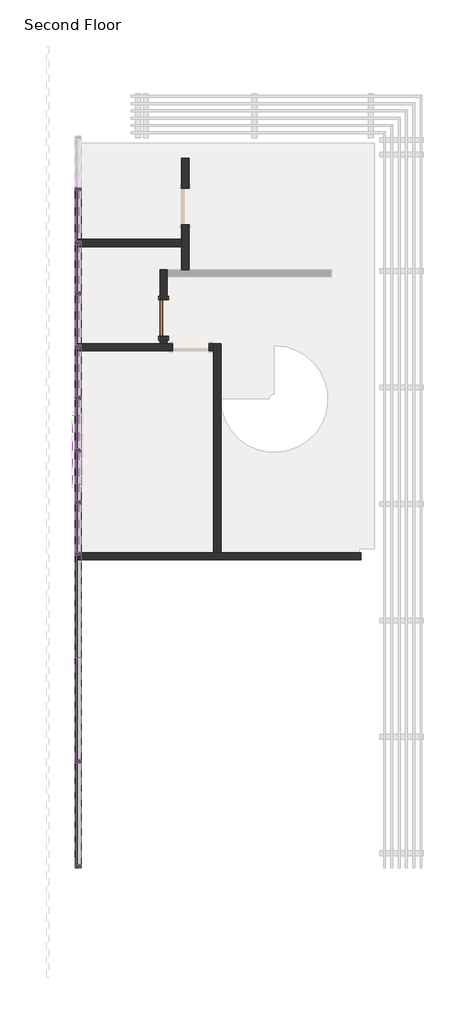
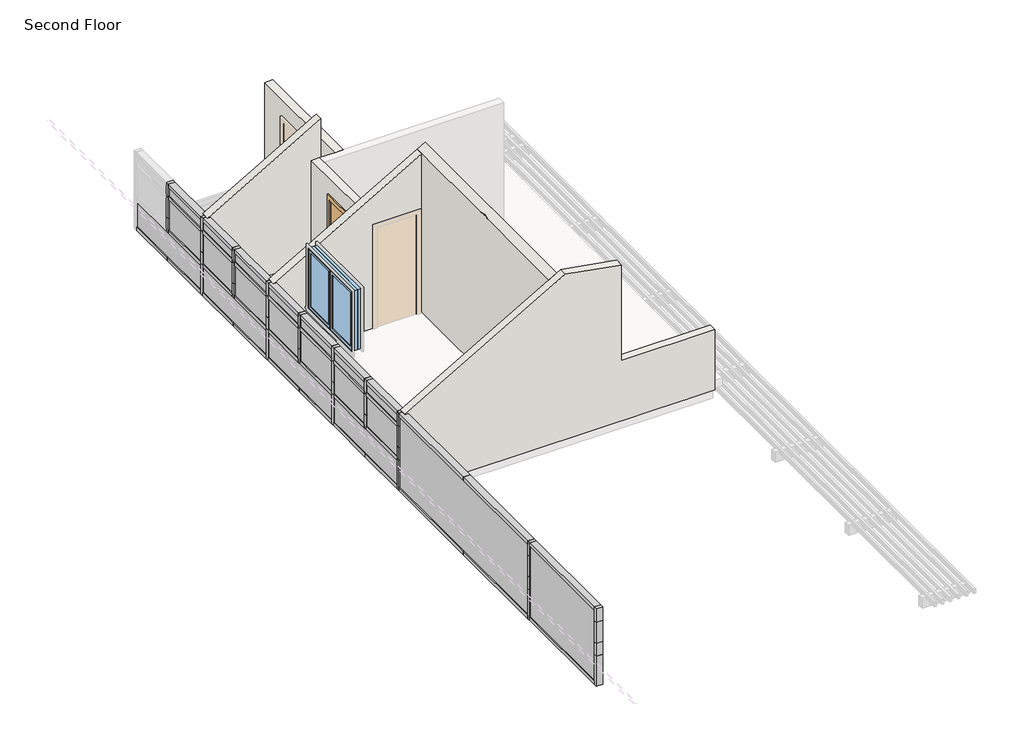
# One storey, part 1 of 2: 71 members, 20 plates, 6 walls, 1 door, 1 window.
"""IFC4 building model written with IfcOpenShell, lengths in millimetres."""

from ifc_helpers import new_model, si_unit, frame, origin, place, context, project, spatial, polyline, outline, extrude, faceted_brep, transform, mapped, element, save
from components import door_059fdd7e, rectangular_mullion_rectangular_mullion_1_6e77e263, rectangular_mullion_rectangular_mullion_1_7df0f936, rectangular_mullion_rectangular_mullion_1_68834932, rectangular_mullion_rectangular_mullion_1_b7543a3e, rectangular_mullion_rectangular_mullion_1_af49f44f, rectangular_mullion_rectangular_mullion_1_74aeaaab, rectangular_mullion_rectangular_mullion_1_2e414231, rectangular_mullion_rectangular_mullion_1_6731908d, rectangular_mullion_rectangular_mullion_1_65086490, rectangular_mullion_rectangular_mullion_1_32bdf917, rectangular_mullion_rectangular_mullion_1_7b22c351, rectangular_mullion_rectangular_mullion_1_1e05b418, rectangular_mullion_rectangular_mullion_1_e4e82bb0, rectangular_mullion_rectangular_mullion_1_16b13197, rectangular_mullion_rectangular_mullion_1_a5e39d68, rectangular_mullion_rectangular_mullion_1_ad07f679, rectangular_mullion_rectangular_mullion_1_b1fe1b6d, rectangular_mullion_rectangular_mullion_1_714c2959, rectangular_mullion_rectangular_mullion_1_b3dc08c2, rectangular_mullion_rectangular_mullion_1_47bfaf8a, rectangular_mullion_rectangular_mullion_1_be2dbdeb, rectangular_mullion_rectangular_mullion_1_29d43bb4, rectangular_mullion_rectangular_mullion_1_70b87a21, rectangular_mullion_rectangular_mullion_1_84b97a81, rectangular_mullion_rectangular_mullion_1_4adcbd6e, rectangular_mullion_rectangular_mullion_1_74bde041, rectangular_mullion_rectangular_mullion_1_f75d8952, rectangular_mullion_rectangular_mullion_1_b141be86, rectangular_mullion_rectangular_mullion_1_3946712a, rectangular_mullion_rectangular_mullion_1_668be47d, system_panel_glazed_74a70a57, system_panel_glazed_a0f14529, system_panel_glazed_b5ab2dc2, system_panel_glazed_ca1059b5, system_panel_glazed_2848853c, system_panel_glazed_a07b40ec, system_panel_glazed_44ad9f86, system_panel_glazed_0fbc5ba6, system_panel_solid_blue_079ace0d, system_panel_solid_grey_e7991892, system_panel_solid_grey_a226ff41, system_panel_solid_white_74d800a9, system_panel_solid_white_ddb6fdde, system_panel_solid_white_80b295cb, system_panel_solid_white_16178a78, system_panel_solid_white_cfc009cd, system_panel_solid_white_8a7a1054, system_panel_solid_white_9296219a, window_b63bc7d6

model = new_model("IFC4")

# Units and contexts
model_context = context("Model", 3, world=origin())
ifc_project = project(units=[si_unit("LENGTHUNIT", "METRE", prefix="MILLI")], contexts=[model_context])

# Site, building, storey
site = spatial("IfcSite", under=ifc_project)
building = spatial("IfcBuilding", under=site)
storey = spatial("IfcBuildingStorey", under=building, Name="Second Floor", Elevation=3657.6)

# Door
placement = place(None, origin())
door_shape = door_059fdd7e(model_context)
element("IfcDoor", 1, ObjectType="Single-Flush : 30\" x 80\"", at=placement, inside=storey, context=model_context, shape_type="MappedRepresentation", body=[
    mapped(door_shape, transform((-4472.7234998, 13020.0298869, 3657.6), x_axis=(0.0, 1.0, 0.0), y_axis=(-1.0, 0.0, 0.0), z_axis=(0.0, 0.0, 1.0))),
])

# Members
rectangular_mullion_rectangular_mullion_1_shape = rectangular_mullion_rectangular_mullion_1_6e77e263(model_context)
element("IfcMember", 2, ObjectType="Rectangular Mullion : Rectangular Mullion 1", at=placement, inside=storey, context=model_context, shape_type="MappedRepresentation", body=[
    mapped(rectangular_mullion_rectangular_mullion_1_shape, transform((-6265.5401664, 8084.2656012, 3657.6), x_axis=(0.0, 1.0, 0.0), y_axis=(1.0, 0.0, 0.0), z_axis=(0.0, 0.0, -1.0))),
])
element("IfcMember", 3, ObjectType="Rectangular Mullion : Rectangular Mullion 1", at=placement, inside=storey, context=model_context, shape_type="MappedRepresentation", body=[
    mapped(rectangular_mullion_rectangular_mullion_1_shape, transform((-6265.5401664, 10254.1513154, 3657.6), x_axis=(0.0, 1.0, 0.0), y_axis=(1.0, 0.0, 0.0), z_axis=(0.0, 0.0, -1.0))),
])
element("IfcMember", 4, ObjectType="Rectangular Mullion : Rectangular Mullion 1", at=placement, inside=storey, context=model_context, shape_type="MappedRepresentation", body=[
    mapped(rectangular_mullion_rectangular_mullion_1_shape, transform((-6265.5401664, 12424.0370296, 3657.6), x_axis=(0.0, 1.0, 0.0), y_axis=(1.0, 0.0, 0.0), z_axis=(0.0, 0.0, -1.0))),
])
element("IfcMember", 5, ObjectType="Rectangular Mullion : Rectangular Mullion 1", at=placement, inside=storey, context=model_context, shape_type="MappedRepresentation", body=[
    mapped(rectangular_mullion_rectangular_mullion_1_shape, transform((-6265.5401664, 14593.9227438, 3657.6), x_axis=(0.0, 1.0, 0.0), y_axis=(1.0, 0.0, 0.0), z_axis=(0.0, 0.0, -1.0))),
])
rectangular_mullion_rectangular_mullion_1_2_shape = rectangular_mullion_rectangular_mullion_1_7df0f936(model_context)
element("IfcMember", 6, ObjectType="Rectangular Mullion : Rectangular Mullion 1", at=placement, inside=storey, context=model_context, shape_type="MappedRepresentation", body=[
    mapped(rectangular_mullion_rectangular_mullion_1_2_shape, transform((-6265.5401664, 9137.4584583, 4953.0), x_axis=(0.0, 0.0, 1.0), y_axis=(1.0, 0.0, 0.0), z_axis=(0.0, 1.0, 0.0))),
])
element("IfcMember", 7, ObjectType="Rectangular Mullion : Rectangular Mullion 1", at=placement, inside=storey, context=model_context, shape_type="MappedRepresentation", body=[
    mapped(rectangular_mullion_rectangular_mullion_1_2_shape, transform((-6265.5401664, 10222.4013154, 4953.0), x_axis=(0.0, 0.0, 1.0), y_axis=(1.0, 0.0, 0.0), z_axis=(0.0, 1.0, 0.0))),
])
element("IfcMember", 8, ObjectType="Rectangular Mullion : Rectangular Mullion 1", at=placement, inside=storey, context=model_context, shape_type="MappedRepresentation", body=[
    mapped(rectangular_mullion_rectangular_mullion_1_2_shape, transform((-6265.5401664, 9137.4584583, 4267.2), x_axis=(0.0, 0.0, 1.0), y_axis=(1.0, 0.0, 0.0), z_axis=(0.0, 1.0, 0.0))),
])
element("IfcMember", 9, ObjectType="Rectangular Mullion : Rectangular Mullion 1", at=placement, inside=storey, context=model_context, shape_type="MappedRepresentation", body=[
    mapped(rectangular_mullion_rectangular_mullion_1_2_shape, transform((-6265.5401664, 10222.4013154, 4267.2), x_axis=(0.0, 0.0, 1.0), y_axis=(1.0, 0.0, 0.0), z_axis=(0.0, 1.0, 0.0))),
])
rectangular_mullion_rectangular_mullion_1_3_shape = rectangular_mullion_rectangular_mullion_1_68834932(model_context)
element("IfcMember", 10, ObjectType="Rectangular Mullion : Rectangular Mullion 1", at=placement, inside=storey, context=model_context, shape_type="MappedRepresentation", body=[
    mapped(rectangular_mullion_rectangular_mullion_1_3_shape, transform((-6265.5401664, 11325.4870297, 4953.0), x_axis=(0.0, 0.0, 1.0), y_axis=(1.0, 0.0, 0.0), z_axis=(0.0, 1.0, 0.0))),
])
element("IfcMember", 11, ObjectType="Rectangular Mullion : Rectangular Mullion 1", at=placement, inside=storey, context=model_context, shape_type="MappedRepresentation", body=[
    mapped(rectangular_mullion_rectangular_mullion_1_3_shape, transform((-6265.5401664, 11325.4870297, 4267.2), x_axis=(0.0, 0.0, 1.0), y_axis=(1.0, 0.0, 0.0), z_axis=(0.0, 1.0, 0.0))),
])
rectangular_mullion_rectangular_mullion_1_4_shape = rectangular_mullion_rectangular_mullion_1_b7543a3e(model_context)
element("IfcMember", 12, ObjectType="Rectangular Mullion : Rectangular Mullion 1", at=placement, inside=storey, context=model_context, shape_type="MappedRepresentation", body=[
    mapped(rectangular_mullion_rectangular_mullion_1_4_shape, transform((-6265.5401664, 12392.2870296, 4953.0), x_axis=(0.0, 0.0, 1.0), y_axis=(1.0, 0.0, 0.0), z_axis=(0.0, 1.0, 0.0))),
])
element("IfcMember", 13, ObjectType="Rectangular Mullion : Rectangular Mullion 1", at=placement, inside=storey, context=model_context, shape_type="MappedRepresentation", body=[
    mapped(rectangular_mullion_rectangular_mullion_1_4_shape, transform((-6265.5401664, 12392.2870296, 4267.2), x_axis=(0.0, 0.0, 1.0), y_axis=(1.0, 0.0, 0.0), z_axis=(0.0, 1.0, 0.0))),
])
rectangular_mullion_rectangular_mullion_1_5_shape = rectangular_mullion_rectangular_mullion_1_af49f44f(model_context)
element("IfcMember", 14, ObjectType="Rectangular Mullion : Rectangular Mullion 1", at=placement, inside=storey, context=model_context, shape_type="MappedRepresentation", body=[
    mapped(rectangular_mullion_rectangular_mullion_1_5_shape, transform((-6265.5401664, 5914.379887, 3657.6), x_axis=(0.0, 0.0, -1.0), y_axis=(1.0, 0.0, 0.0), z_axis=(0.0, -1.0, 0.0))),
])
rectangular_mullion_rectangular_mullion_1_6_shape = rectangular_mullion_rectangular_mullion_1_74aeaaab(model_context)
element("IfcMember", 15, ObjectType="Rectangular Mullion : Rectangular Mullion 1", at=placement, inside=storey, context=model_context, shape_type="MappedRepresentation", body=[
    mapped(rectangular_mullion_rectangular_mullion_1_6_shape, transform((-6265.5401664, 8116.0156012, 3657.6), x_axis=(0.0, 0.0, -1.0), y_axis=(1.0, 0.0, 0.0), z_axis=(0.0, -1.0, 0.0))),
])
rectangular_mullion_rectangular_mullion_1_7_shape = rectangular_mullion_rectangular_mullion_1_2e414231(model_context)
element("IfcMember", 16, ObjectType="Rectangular Mullion : Rectangular Mullion 1", at=placement, inside=storey, context=model_context, shape_type="MappedRepresentation", body=[
    mapped(rectangular_mullion_rectangular_mullion_1_7_shape, transform((-6265.5401664, 10285.9013154, 3657.6), x_axis=(0.0, 0.0, -1.0), y_axis=(1.0, 0.0, 0.0), z_axis=(0.0, -1.0, 0.0))),
])
rectangular_mullion_rectangular_mullion_1_8_shape = rectangular_mullion_rectangular_mullion_1_6731908d(model_context)
element("IfcMember", 17, ObjectType="Rectangular Mullion : Rectangular Mullion 1", at=placement, inside=storey, context=model_context, shape_type="MappedRepresentation", body=[
    mapped(rectangular_mullion_rectangular_mullion_1_8_shape, transform((-6265.5401664, 12455.7870296, 3657.6), x_axis=(0.0, 0.0, -1.0), y_axis=(1.0, 0.0, 0.0), z_axis=(0.0, -1.0, 0.0))),
])
rectangular_mullion_rectangular_mullion_1_9_shape = rectangular_mullion_rectangular_mullion_1_65086490(model_context)
element("IfcMember", 18, ObjectType="Rectangular Mullion : Rectangular Mullion 1", at=placement, inside=storey, context=model_context, shape_type="MappedRepresentation", body=[
    mapped(rectangular_mullion_rectangular_mullion_1_9_shape, transform((-6265.5401664, 14625.6727438, 3657.6), x_axis=(0.0, 0.0, -1.0), y_axis=(1.0, 0.0, 0.0), z_axis=(0.0, -1.0, 0.0))),
])
rectangular_mullion_rectangular_mullion_1_10_shape = rectangular_mullion_rectangular_mullion_1_32bdf917(model_context)
element("IfcMember", 19, ObjectType="Rectangular Mullion : Rectangular Mullion 1", at=placement, inside=storey, context=model_context, shape_type="MappedRepresentation", body=[
    mapped(rectangular_mullion_rectangular_mullion_1_10_shape, transform((-6265.5401664, 15733.2941726, 3657.6), x_axis=(0.0, 0.0, -1.0), y_axis=(1.0, 0.0, 0.0), z_axis=(0.0, -1.0, 0.0))),
])
rectangular_mullion_rectangular_mullion_1_11_shape = rectangular_mullion_rectangular_mullion_1_7b22c351(model_context)
element("IfcMember", 20, ObjectType="Rectangular Mullion : Rectangular Mullion 1", at=placement, inside=storey, context=model_context, shape_type="MappedRepresentation", body=[
    mapped(rectangular_mullion_rectangular_mullion_1_11_shape, transform((-6265.5401664, 13545.2656011, 3657.6), x_axis=(0.0, 0.0, -1.0), y_axis=(1.0, 0.0, 0.0), z_axis=(0.0, -1.0, 0.0))),
])
rectangular_mullion_rectangular_mullion_1_12_shape = rectangular_mullion_rectangular_mullion_1_1e05b418(model_context)
element("IfcMember", 21, ObjectType="Rectangular Mullion : Rectangular Mullion 1", at=placement, inside=storey, context=model_context, shape_type="MappedRepresentation", body=[
    mapped(rectangular_mullion_rectangular_mullion_1_12_shape, transform((-6265.5401664, 11357.2370297, 3657.6), x_axis=(0.0, 0.0, -1.0), y_axis=(1.0, 0.0, 0.0), z_axis=(0.0, -1.0, 0.0))),
])
element("IfcMember", 22, ObjectType="Rectangular Mullion : Rectangular Mullion 1", at=placement, inside=storey, context=model_context, shape_type="MappedRepresentation", body=[
    mapped(rectangular_mullion_rectangular_mullion_1_6_shape, transform((-6265.5401664, 9169.2084583, 3657.6), x_axis=(0.0, 0.0, -1.0), y_axis=(1.0, 0.0, 0.0), z_axis=(0.0, -1.0, 0.0))),
])
element("IfcMember", 23, ObjectType="Rectangular Mullion : Rectangular Mullion 1", at=placement, inside=storey, context=model_context, shape_type="MappedRepresentation", body=[
    mapped(rectangular_mullion_rectangular_mullion_1_5_shape, transform((-6265.5401664, 8052.5156012, 5228.7527241), x_axis=(0.0, 0.0, 1.0), y_axis=(1.0, 0.0, 0.0), z_axis=(0.0, 1.0, 0.0))),
])
rectangular_mullion_rectangular_mullion_1_13_shape = rectangular_mullion_rectangular_mullion_1_e4e82bb0(model_context)
element("IfcMember", 24, ObjectType="Rectangular Mullion : Rectangular Mullion 1", at=placement, inside=storey, context=model_context, shape_type="MappedRepresentation", body=[
    mapped(rectangular_mullion_rectangular_mullion_1_13_shape, transform((-6265.5401664, 10222.4013154, 5228.7527241), x_axis=(0.0, 0.0, 1.0), y_axis=(1.0, 0.0, 0.0), z_axis=(0.0, 1.0, 0.0))),
])
element("IfcMember", 25, ObjectType="Rectangular Mullion : Rectangular Mullion 1", at=placement, inside=storey, context=model_context, shape_type="MappedRepresentation", body=[
    mapped(rectangular_mullion_rectangular_mullion_1_13_shape, transform((-6265.5401664, 9137.4584583, 5228.7527241), x_axis=(0.0, 0.0, 1.0), y_axis=(1.0, 0.0, 0.0), z_axis=(0.0, 1.0, 0.0))),
])
rectangular_mullion_rectangular_mullion_1_14_shape = rectangular_mullion_rectangular_mullion_1_16b13197(model_context)
element("IfcMember", 26, ObjectType="Rectangular Mullion : Rectangular Mullion 1", at=placement, inside=storey, context=model_context, shape_type="MappedRepresentation", body=[
    mapped(rectangular_mullion_rectangular_mullion_1_14_shape, transform((-6265.5401664, 12392.2870296, 5228.7527241), x_axis=(0.0, 0.0, 1.0), y_axis=(1.0, 0.0, 0.0), z_axis=(0.0, 1.0, 0.0))),
])
rectangular_mullion_rectangular_mullion_1_15_shape = rectangular_mullion_rectangular_mullion_1_a5e39d68(model_context)
element("IfcMember", 27, ObjectType="Rectangular Mullion : Rectangular Mullion 1", at=placement, inside=storey, context=model_context, shape_type="MappedRepresentation", body=[
    mapped(rectangular_mullion_rectangular_mullion_1_15_shape, transform((-6265.5401664, 14562.1727438, 5228.7527241), x_axis=(0.0, 0.0, 1.0), y_axis=(1.0, 0.0, 0.0), z_axis=(0.0, 1.0, 0.0))),
])
rectangular_mullion_rectangular_mullion_1_16_shape = rectangular_mullion_rectangular_mullion_1_ad07f679(model_context)
element("IfcMember", 28, ObjectType="Rectangular Mullion : Rectangular Mullion 1", at=placement, inside=storey, context=model_context, shape_type="MappedRepresentation", body=[
    mapped(rectangular_mullion_rectangular_mullion_1_16_shape, transform((-6265.5401664, 15701.5441726, 5228.7527241), x_axis=(0.0, 0.0, 1.0), y_axis=(1.0, 0.0, 0.0), z_axis=(0.0, 1.0, 0.0))),
])
rectangular_mullion_rectangular_mullion_1_17_shape = rectangular_mullion_rectangular_mullion_1_b1fe1b6d(model_context)
element("IfcMember", 29, ObjectType="Rectangular Mullion : Rectangular Mullion 1", at=placement, inside=storey, context=model_context, shape_type="MappedRepresentation", body=[
    mapped(rectangular_mullion_rectangular_mullion_1_17_shape, transform((-6265.5401664, 13513.5156011, 5228.7527241), x_axis=(0.0, 0.0, 1.0), y_axis=(1.0, 0.0, 0.0), z_axis=(0.0, 1.0, 0.0))),
])
rectangular_mullion_rectangular_mullion_1_18_shape = rectangular_mullion_rectangular_mullion_1_714c2959(model_context)
element("IfcMember", 30, ObjectType="Rectangular Mullion : Rectangular Mullion 1", at=placement, inside=storey, context=model_context, shape_type="MappedRepresentation", body=[
    mapped(rectangular_mullion_rectangular_mullion_1_18_shape, transform((-6265.5401664, 11325.4870297, 5228.7527241), x_axis=(0.0, 0.0, 1.0), y_axis=(1.0, 0.0, 0.0), z_axis=(0.0, 1.0, 0.0))),
])
rectangular_mullion_rectangular_mullion_1_19_shape = rectangular_mullion_rectangular_mullion_1_b3dc08c2(model_context)
element("IfcMember", 31, ObjectType="Rectangular Mullion : Rectangular Mullion 1", at=placement, inside=storey, context=model_context, shape_type="MappedRepresentation", body=[
    mapped(rectangular_mullion_rectangular_mullion_1_19_shape, transform((-6265.5401664, 3712.7441728, 5228.7527241), x_axis=(0.0, 0.0, 1.0), y_axis=(1.0, 0.0, 0.0), z_axis=(0.0, 1.0, 0.0))),
])
element("IfcMember", 32, ObjectType="Rectangular Mullion : Rectangular Mullion 1", at=placement, inside=storey, context=model_context, shape_type="MappedRepresentation", body=[
    mapped(rectangular_mullion_rectangular_mullion_1_5_shape, transform((-6265.5401664, 5914.379887, 5228.7527241), x_axis=(0.0, 0.0, 1.0), y_axis=(1.0, 0.0, 0.0), z_axis=(0.0, 1.0, 0.0))),
])
element("IfcMember", 33, ObjectType="Rectangular Mullion : Rectangular Mullion 1", at=placement, inside=storey, context=model_context, shape_type="MappedRepresentation", body=[
    mapped(rectangular_mullion_rectangular_mullion_1_19_shape, transform((-6265.5401664, 1574.6084583, 3657.6), x_axis=(0.0, 0.0, -1.0), y_axis=(1.0, 0.0, 0.0), z_axis=(0.0, -1.0, 0.0))),
])
element("IfcMember", 34, ObjectType="Rectangular Mullion : Rectangular Mullion 1", at=placement, inside=storey, context=model_context, shape_type="MappedRepresentation", body=[
    mapped(rectangular_mullion_rectangular_mullion_1_5_shape, transform((-6265.5401664, 3776.2441728, 3657.6), x_axis=(0.0, 0.0, -1.0), y_axis=(1.0, 0.0, 0.0), z_axis=(0.0, -1.0, 0.0))),
])
element("IfcMember", 35, ObjectType="Rectangular Mullion : Rectangular Mullion 1", at=placement, inside=storey, context=model_context, shape_type="MappedRepresentation", body=[
    mapped(rectangular_mullion_rectangular_mullion_1_shape, transform((-6265.5401664, 3744.4941728, 3657.6), x_axis=(0.0, 1.0, 0.0), y_axis=(1.0, 0.0, 0.0), z_axis=(0.0, 0.0, -1.0))),
])
rectangular_mullion_rectangular_mullion_1_20_shape = rectangular_mullion_rectangular_mullion_1_47bfaf8a(model_context)
element("IfcMember", 36, ObjectType="Rectangular Mullion : Rectangular Mullion 1", at=placement, inside=storey, context=model_context, shape_type="MappedRepresentation", body=[
    mapped(rectangular_mullion_rectangular_mullion_1_20_shape, transform((-6265.5401664, 1511.1084583, 4267.2), x_axis=(0.0, -1.0, 0.0), y_axis=(1.0, 0.0, 0.0), z_axis=(0.0, 0.0, 1.0))),
])
rectangular_mullion_rectangular_mullion_1_21_shape = rectangular_mullion_rectangular_mullion_1_be2dbdeb(model_context)
element("IfcMember", 37, ObjectType="Rectangular Mullion : Rectangular Mullion 1", at=placement, inside=storey, context=model_context, shape_type="MappedRepresentation", body=[
    mapped(rectangular_mullion_rectangular_mullion_1_21_shape, transform((-6265.5401664, 8084.2656012, 4267.2), x_axis=(0.0, 1.0, 0.0), y_axis=(1.0, 0.0, 0.0), z_axis=(0.0, 0.0, -1.0))),
])
element("IfcMember", 38, ObjectType="Rectangular Mullion : Rectangular Mullion 1", at=placement, inside=storey, context=model_context, shape_type="MappedRepresentation", body=[
    mapped(rectangular_mullion_rectangular_mullion_1_21_shape, transform((-6265.5401664, 10254.1513154, 4267.2), x_axis=(0.0, 1.0, 0.0), y_axis=(1.0, 0.0, 0.0), z_axis=(0.0, 0.0, -1.0))),
])
element("IfcMember", 39, ObjectType="Rectangular Mullion : Rectangular Mullion 1", at=placement, inside=storey, context=model_context, shape_type="MappedRepresentation", body=[
    mapped(rectangular_mullion_rectangular_mullion_1_21_shape, transform((-6265.5401664, 12424.0370296, 4267.2), x_axis=(0.0, 1.0, 0.0), y_axis=(1.0, 0.0, 0.0), z_axis=(0.0, 0.0, -1.0))),
])
element("IfcMember", 40, ObjectType="Rectangular Mullion : Rectangular Mullion 1", at=placement, inside=storey, context=model_context, shape_type="MappedRepresentation", body=[
    mapped(rectangular_mullion_rectangular_mullion_1_21_shape, transform((-6265.5401664, 14593.9227438, 4267.2), x_axis=(0.0, 1.0, 0.0), y_axis=(1.0, 0.0, 0.0), z_axis=(0.0, 0.0, -1.0))),
])
rectangular_mullion_rectangular_mullion_1_22_shape = rectangular_mullion_rectangular_mullion_1_29d43bb4(model_context)
element("IfcMember", 41, ObjectType="Rectangular Mullion : Rectangular Mullion 1", at=placement, inside=storey, context=model_context, shape_type="MappedRepresentation", body=[
    mapped(rectangular_mullion_rectangular_mullion_1_22_shape, transform((-6265.5401664, 9169.2084583, 4235.45), x_axis=(0.0, 1.0, 0.0), y_axis=(1.0, 0.0, 0.0), z_axis=(0.0, 0.0, -1.0))),
])
element("IfcMember", 42, ObjectType="Rectangular Mullion : Rectangular Mullion 1", at=placement, inside=storey, context=model_context, shape_type="MappedRepresentation", body=[
    mapped(rectangular_mullion_rectangular_mullion_1_22_shape, transform((-6265.5401664, 11357.2370297, 4235.45), x_axis=(0.0, 1.0, 0.0), y_axis=(1.0, 0.0, 0.0), z_axis=(0.0, 0.0, -1.0))),
])
element("IfcMember", 43, ObjectType="Rectangular Mullion : Rectangular Mullion 1", at=placement, inside=storey, context=model_context, shape_type="MappedRepresentation", body=[
    mapped(rectangular_mullion_rectangular_mullion_1_22_shape, transform((-6265.5401664, 13545.2656011, 4235.45), x_axis=(0.0, 1.0, 0.0), y_axis=(1.0, 0.0, 0.0), z_axis=(0.0, 0.0, -1.0))),
])
element("IfcMember", 44, ObjectType="Rectangular Mullion : Rectangular Mullion 1", at=placement, inside=storey, context=model_context, shape_type="MappedRepresentation", body=[
    mapped(rectangular_mullion_rectangular_mullion_1_22_shape, transform((-6265.5401664, 15733.2941726, 4235.45), x_axis=(0.0, 1.0, 0.0), y_axis=(1.0, 0.0, 0.0), z_axis=(0.0, 0.0, -1.0))),
])
element("IfcMember", 45, ObjectType="Rectangular Mullion : Rectangular Mullion 1", at=placement, inside=storey, context=model_context, shape_type="MappedRepresentation", body=[
    mapped(rectangular_mullion_rectangular_mullion_1_21_shape, transform((-6265.5401664, 3744.4941728, 4267.2), x_axis=(0.0, 1.0, 0.0), y_axis=(1.0, 0.0, 0.0), z_axis=(0.0, 0.0, -1.0))),
])
rectangular_mullion_rectangular_mullion_1_23_shape = rectangular_mullion_rectangular_mullion_1_70b87a21(model_context)
element("IfcMember", 46, ObjectType="Rectangular Mullion : Rectangular Mullion 1", at=placement, inside=storey, context=model_context, shape_type="MappedRepresentation", body=[
    mapped(rectangular_mullion_rectangular_mullion_1_23_shape, transform((-6265.5401664, 8084.2656012, 4527.55), x_axis=(0.0, 1.0, 0.0), y_axis=(1.0, 0.0, 0.0), z_axis=(0.0, 0.0, -1.0))),
])
element("IfcMember", 47, ObjectType="Rectangular Mullion : Rectangular Mullion 1", at=placement, inside=storey, context=model_context, shape_type="MappedRepresentation", body=[
    mapped(rectangular_mullion_rectangular_mullion_1_23_shape, transform((-6265.5401664, 9169.2084583, 4527.55), x_axis=(0.0, 1.0, 0.0), y_axis=(1.0, 0.0, 0.0), z_axis=(0.0, 0.0, -1.0))),
])
element("IfcMember", 48, ObjectType="Rectangular Mullion : Rectangular Mullion 1", at=placement, inside=storey, context=model_context, shape_type="MappedRepresentation", body=[
    mapped(rectangular_mullion_rectangular_mullion_1_23_shape, transform((-6265.5401664, 10254.1513154, 4527.55), x_axis=(0.0, 1.0, 0.0), y_axis=(1.0, 0.0, 0.0), z_axis=(0.0, 0.0, -1.0))),
])
element("IfcMember", 49, ObjectType="Rectangular Mullion : Rectangular Mullion 1", at=placement, inside=storey, context=model_context, shape_type="MappedRepresentation", body=[
    mapped(rectangular_mullion_rectangular_mullion_1_23_shape, transform((-6265.5401664, 11357.2370297, 4527.55), x_axis=(0.0, 1.0, 0.0), y_axis=(1.0, 0.0, 0.0), z_axis=(0.0, 0.0, -1.0))),
])
element("IfcMember", 50, ObjectType="Rectangular Mullion : Rectangular Mullion 1", at=placement, inside=storey, context=model_context, shape_type="MappedRepresentation", body=[
    mapped(rectangular_mullion_rectangular_mullion_1_23_shape, transform((-6265.5401664, 12424.0370296, 4527.55), x_axis=(0.0, 1.0, 0.0), y_axis=(1.0, 0.0, 0.0), z_axis=(0.0, 0.0, -1.0))),
])
element("IfcMember", 51, ObjectType="Rectangular Mullion : Rectangular Mullion 1", at=placement, inside=storey, context=model_context, shape_type="MappedRepresentation", body=[
    mapped(rectangular_mullion_rectangular_mullion_1_23_shape, transform((-6265.5401664, 13545.2656011, 4527.55), x_axis=(0.0, 1.0, 0.0), y_axis=(1.0, 0.0, 0.0), z_axis=(0.0, 0.0, -1.0))),
])
element("IfcMember", 52, ObjectType="Rectangular Mullion : Rectangular Mullion 1", at=placement, inside=storey, context=model_context, shape_type="MappedRepresentation", body=[
    mapped(rectangular_mullion_rectangular_mullion_1_23_shape, transform((-6265.5401664, 14593.9227438, 4527.55), x_axis=(0.0, 1.0, 0.0), y_axis=(1.0, 0.0, 0.0), z_axis=(0.0, 0.0, -1.0))),
])
element("IfcMember", 53, ObjectType="Rectangular Mullion : Rectangular Mullion 1", at=placement, inside=storey, context=model_context, shape_type="MappedRepresentation", body=[
    mapped(rectangular_mullion_rectangular_mullion_1_23_shape, transform((-6265.5401664, 15733.2941726, 4527.55), x_axis=(0.0, 1.0, 0.0), y_axis=(1.0, 0.0, 0.0), z_axis=(0.0, 0.0, -1.0))),
])
element("IfcMember", 54, ObjectType="Rectangular Mullion : Rectangular Mullion 1", at=placement, inside=storey, context=model_context, shape_type="MappedRepresentation", body=[
    mapped(rectangular_mullion_rectangular_mullion_1_23_shape, transform((-6265.5401664, 3744.4941728, 4527.55), x_axis=(0.0, 1.0, 0.0), y_axis=(1.0, 0.0, 0.0), z_axis=(0.0, 0.0, -1.0))),
])
rectangular_mullion_rectangular_mullion_1_24_shape = rectangular_mullion_rectangular_mullion_1_84b97a81(model_context)
element("IfcMember", 55, ObjectType="Rectangular Mullion : Rectangular Mullion 1", at=placement, inside=storey, context=model_context, shape_type="MappedRepresentation", body=[
    mapped(rectangular_mullion_rectangular_mullion_1_24_shape, transform((-6265.5401664, 1511.1084583, 4953.0), x_axis=(0.0, -1.0, 0.0), y_axis=(1.0, 0.0, 0.0), z_axis=(0.0, 0.0, 1.0))),
])
rectangular_mullion_rectangular_mullion_1_25_shape = rectangular_mullion_rectangular_mullion_1_4adcbd6e(model_context)
element("IfcMember", 56, ObjectType="Rectangular Mullion : Rectangular Mullion 1", at=placement, inside=storey, context=model_context, shape_type="MappedRepresentation", body=[
    mapped(rectangular_mullion_rectangular_mullion_1_25_shape, transform((-6265.5401664, 1511.1084583, 4527.55), x_axis=(0.0, -1.0, 0.0), y_axis=(1.0, 0.0, 0.0), z_axis=(0.0, 0.0, 1.0))),
])
rectangular_mullion_rectangular_mullion_1_26_shape = rectangular_mullion_rectangular_mullion_1_74bde041(model_context)
element("IfcMember", 57, ObjectType="Rectangular Mullion : Rectangular Mullion 1", at=placement, inside=storey, context=model_context, shape_type="MappedRepresentation", body=[
    mapped(rectangular_mullion_rectangular_mullion_1_26_shape, transform((-6265.5401664, 8084.2656012, 4953.0), x_axis=(0.0, 1.0, 0.0), y_axis=(1.0, 0.0, 0.0), z_axis=(0.0, 0.0, -1.0))),
])
element("IfcMember", 58, ObjectType="Rectangular Mullion : Rectangular Mullion 1", at=placement, inside=storey, context=model_context, shape_type="MappedRepresentation", body=[
    mapped(rectangular_mullion_rectangular_mullion_1_26_shape, transform((-6265.5401664, 9169.2084583, 4953.0), x_axis=(0.0, 1.0, 0.0), y_axis=(1.0, 0.0, 0.0), z_axis=(0.0, 0.0, -1.0))),
])
element("IfcMember", 59, ObjectType="Rectangular Mullion : Rectangular Mullion 1", at=placement, inside=storey, context=model_context, shape_type="MappedRepresentation", body=[
    mapped(rectangular_mullion_rectangular_mullion_1_26_shape, transform((-6265.5401664, 10254.1513154, 4953.0), x_axis=(0.0, 1.0, 0.0), y_axis=(1.0, 0.0, 0.0), z_axis=(0.0, 0.0, -1.0))),
])
element("IfcMember", 60, ObjectType="Rectangular Mullion : Rectangular Mullion 1", at=placement, inside=storey, context=model_context, shape_type="MappedRepresentation", body=[
    mapped(rectangular_mullion_rectangular_mullion_1_26_shape, transform((-6265.5401664, 11357.2370297, 4953.0), x_axis=(0.0, 1.0, 0.0), y_axis=(1.0, 0.0, 0.0), z_axis=(0.0, 0.0, -1.0))),
])
element("IfcMember", 61, ObjectType="Rectangular Mullion : Rectangular Mullion 1", at=placement, inside=storey, context=model_context, shape_type="MappedRepresentation", body=[
    mapped(rectangular_mullion_rectangular_mullion_1_26_shape, transform((-6265.5401664, 12424.0370296, 4953.0), x_axis=(0.0, 1.0, 0.0), y_axis=(1.0, 0.0, 0.0), z_axis=(0.0, 0.0, -1.0))),
])
element("IfcMember", 62, ObjectType="Rectangular Mullion : Rectangular Mullion 1", at=placement, inside=storey, context=model_context, shape_type="MappedRepresentation", body=[
    mapped(rectangular_mullion_rectangular_mullion_1_26_shape, transform((-6265.5401664, 13545.2656011, 4953.0), x_axis=(0.0, 1.0, 0.0), y_axis=(1.0, 0.0, 0.0), z_axis=(0.0, 0.0, -1.0))),
])
element("IfcMember", 63, ObjectType="Rectangular Mullion : Rectangular Mullion 1", at=placement, inside=storey, context=model_context, shape_type="MappedRepresentation", body=[
    mapped(rectangular_mullion_rectangular_mullion_1_26_shape, transform((-6265.5401664, 14593.9227438, 4953.0), x_axis=(0.0, 1.0, 0.0), y_axis=(1.0, 0.0, 0.0), z_axis=(0.0, 0.0, -1.0))),
])
element("IfcMember", 64, ObjectType="Rectangular Mullion : Rectangular Mullion 1", at=placement, inside=storey, context=model_context, shape_type="MappedRepresentation", body=[
    mapped(rectangular_mullion_rectangular_mullion_1_26_shape, transform((-6265.5401664, 15733.2941726, 4953.0), x_axis=(0.0, 1.0, 0.0), y_axis=(1.0, 0.0, 0.0), z_axis=(0.0, 0.0, -1.0))),
])
element("IfcMember", 65, ObjectType="Rectangular Mullion : Rectangular Mullion 1", at=placement, inside=storey, context=model_context, shape_type="MappedRepresentation", body=[
    mapped(rectangular_mullion_rectangular_mullion_1_26_shape, transform((-6265.5401664, 3744.4941728, 4953.0), x_axis=(0.0, 1.0, 0.0), y_axis=(1.0, 0.0, 0.0), z_axis=(0.0, 0.0, -1.0))),
])
rectangular_mullion_rectangular_mullion_1_27_shape = rectangular_mullion_rectangular_mullion_1_f75d8952(model_context)
element("IfcMember", 66, ObjectType="Rectangular Mullion : Rectangular Mullion 1", at=placement, inside=storey, context=model_context, shape_type="MappedRepresentation", body=[
    mapped(rectangular_mullion_rectangular_mullion_1_27_shape, transform((-6265.5401664, 1511.1084583, 5228.7527241), x_axis=(0.0, -1.0, 0.0), y_axis=(1.0, 0.0, 0.0), z_axis=(0.0, 0.0, 1.0))),
])
rectangular_mullion_rectangular_mullion_1_28_shape = rectangular_mullion_rectangular_mullion_1_b141be86(model_context)
element("IfcMember", 67, ObjectType="Rectangular Mullion : Rectangular Mullion 1", at=placement, inside=storey, context=model_context, shape_type="MappedRepresentation", body=[
    mapped(rectangular_mullion_rectangular_mullion_1_28_shape, transform((-6265.5401664, 13513.5156011, 4953.0), x_axis=(0.0, 0.0, 1.0), y_axis=(1.0, 0.0, 0.0), z_axis=(0.0, 1.0, 0.0))),
])
element("IfcMember", 68, ObjectType="Rectangular Mullion : Rectangular Mullion 1", at=placement, inside=storey, context=model_context, shape_type="MappedRepresentation", body=[
    mapped(rectangular_mullion_rectangular_mullion_1_28_shape, transform((-6265.5401664, 13513.5156011, 4267.2), x_axis=(0.0, 0.0, 1.0), y_axis=(1.0, 0.0, 0.0), z_axis=(0.0, 1.0, 0.0))),
])
rectangular_mullion_rectangular_mullion_1_29_shape = rectangular_mullion_rectangular_mullion_1_3946712a(model_context)
element("IfcMember", 69, ObjectType="Rectangular Mullion : Rectangular Mullion 1", at=placement, inside=storey, context=model_context, shape_type="MappedRepresentation", body=[
    mapped(rectangular_mullion_rectangular_mullion_1_29_shape, transform((-6265.5401664, 14562.1727438, 4953.0), x_axis=(0.0, 0.0, 1.0), y_axis=(1.0, 0.0, 0.0), z_axis=(0.0, 1.0, 0.0))),
])
element("IfcMember", 70, ObjectType="Rectangular Mullion : Rectangular Mullion 1", at=placement, inside=storey, context=model_context, shape_type="MappedRepresentation", body=[
    mapped(rectangular_mullion_rectangular_mullion_1_29_shape, transform((-6265.5401664, 14562.1727438, 4267.2), x_axis=(0.0, 0.0, 1.0), y_axis=(1.0, 0.0, 0.0), z_axis=(0.0, 1.0, 0.0))),
])
rectangular_mullion_rectangular_mullion_1_30_shape = rectangular_mullion_rectangular_mullion_1_668be47d(model_context)
element("IfcMember", 71, ObjectType="Rectangular Mullion : Rectangular Mullion 1", at=placement, inside=storey, context=model_context, shape_type="MappedRepresentation", body=[
    mapped(rectangular_mullion_rectangular_mullion_1_30_shape, transform((-6265.5401664, 15701.5441726, 4953.0), x_axis=(0.0, 0.0, 1.0), y_axis=(1.0, 0.0, 0.0), z_axis=(0.0, 1.0, 0.0))),
])
element("IfcMember", 72, ObjectType="Rectangular Mullion : Rectangular Mullion 1", at=placement, inside=storey, context=model_context, shape_type="MappedRepresentation", body=[
    mapped(rectangular_mullion_rectangular_mullion_1_30_shape, transform((-6265.5401664, 15701.5441726, 4267.2), x_axis=(0.0, 0.0, 1.0), y_axis=(1.0, 0.0, 0.0), z_axis=(0.0, 1.0, 0.0))),
])

# Plates
system_panel_glazed_shape = system_panel_glazed_74a70a57(model_context)
element("IfcPlate", 73, ObjectType="System Panel : Glazed", at=placement, inside=storey, context=model_context, shape_type="MappedRepresentation", body=[
    mapped(system_panel_glazed_shape, transform((-6265.5401664, 8626.7370297, 4298.95), x_axis=(0.0, 1.0, 0.0), y_axis=(-1.0, 0.0, 0.0), z_axis=(0.0, 0.0, 1.0))),
])
element("IfcPlate", 74, ObjectType="System Panel : Glazed", at=placement, inside=storey, context=model_context, shape_type="MappedRepresentation", body=[
    mapped(system_panel_glazed_shape, transform((-6265.5401664, 9711.6798868, 4298.95), x_axis=(0.0, 1.0, 0.0), y_axis=(-1.0, 0.0, 0.0), z_axis=(0.0, 0.0, 1.0))),
])
system_panel_glazed_2_shape = system_panel_glazed_a0f14529(model_context)
element("IfcPlate", 75, ObjectType="System Panel : Glazed", at=placement, inside=storey, context=model_context, shape_type="MappedRepresentation", body=[
    mapped(system_panel_glazed_2_shape, transform((-6265.5401664, 10805.6941725, 4298.95), x_axis=(0.0, 1.0, 0.0), y_axis=(-1.0, 0.0, 0.0), z_axis=(0.0, 0.0, 1.0))),
])
system_panel_glazed_3_shape = system_panel_glazed_b5ab2dc2(model_context)
element("IfcPlate", 76, ObjectType="System Panel : Glazed", at=placement, inside=storey, context=model_context, shape_type="MappedRepresentation", body=[
    mapped(system_panel_glazed_3_shape, transform((-6265.5401664, 11890.6370296, 4298.95), x_axis=(0.0, 1.0, 0.0), y_axis=(-1.0, 0.0, 0.0), z_axis=(0.0, 0.0, 1.0))),
])
system_panel_glazed_4_shape = system_panel_glazed_ca1059b5(model_context)
element("IfcPlate", 77, ObjectType="System Panel : Glazed", at=placement, inside=storey, context=model_context, shape_type="MappedRepresentation", body=[
    mapped(system_panel_glazed_4_shape, transform((-6265.5401664, 12984.6513154, 4298.95), x_axis=(0.0, 1.0, 0.0), y_axis=(-1.0, 0.0, 0.0), z_axis=(0.0, 0.0, 1.0))),
])
system_panel_glazed_5_shape = system_panel_glazed_2848853c(model_context)
element("IfcPlate", 78, ObjectType="System Panel : Glazed", at=placement, inside=storey, context=model_context, shape_type="MappedRepresentation", body=[
    mapped(system_panel_glazed_5_shape, transform((-6265.5401664, 14069.5941725, 4298.95), x_axis=(0.0, 1.0, 0.0), y_axis=(-1.0, 0.0, 0.0), z_axis=(0.0, 0.0, 1.0))),
])
system_panel_glazed_6_shape = system_panel_glazed_a07b40ec(model_context)
element("IfcPlate", 79, ObjectType="System Panel : Glazed", at=placement, inside=storey, context=model_context, shape_type="MappedRepresentation", body=[
    mapped(system_panel_glazed_6_shape, transform((-6265.5401664, 15163.6084582, 4298.95), x_axis=(0.0, 1.0, 0.0), y_axis=(-1.0, 0.0, 0.0), z_axis=(0.0, 0.0, 1.0))),
])
system_panel_glazed_7_shape = system_panel_glazed_44ad9f86(model_context)
element("IfcPlate", 80, ObjectType="System Panel : Glazed", at=placement, inside=storey, context=model_context, shape_type="MappedRepresentation", body=[
    mapped(system_panel_glazed_7_shape, transform((-6265.5401664, 2643.6763155, 3721.1), x_axis=(0.0, 1.0, 0.0), y_axis=(-1.0, 0.0, 0.0), z_axis=(0.0, 0.0, 1.0))),
])
system_panel_glazed_8_shape = system_panel_glazed_0fbc5ba6(model_context)
element("IfcPlate", 81, ObjectType="System Panel : Glazed", at=placement, inside=storey, context=model_context, shape_type="MappedRepresentation", body=[
    mapped(system_panel_glazed_8_shape, transform((-6265.5401664, 5914.379887, 3721.1), x_axis=(0.0, 1.0, 0.0), y_axis=(-1.0, 0.0, 0.0), z_axis=(0.0, 0.0, 1.0))),
])
system_panel_solid_blue_shape = system_panel_solid_blue_079ace0d(model_context)
element("IfcPlate", 82, ObjectType="System Panel : Solid - Blue", at=placement, inside=storey, context=model_context, shape_type="MappedRepresentation", body=[
    mapped(system_panel_solid_blue_shape, transform((-6265.5401664, 9169.2084583, 3721.1), x_axis=(0.0, 1.0, 0.0), y_axis=(-1.0, 0.0, 0.0), z_axis=(0.0, 0.0, 1.0))),
])
system_panel_solid_grey_shape = system_panel_solid_grey_e7991892(model_context)
element("IfcPlate", 83, ObjectType="System Panel : Solid - Grey", at=placement, inside=storey, context=model_context, shape_type="MappedRepresentation", body=[
    mapped(system_panel_solid_grey_shape, transform((-6265.5401664, 9711.6798868, 4984.75), x_axis=(0.0, 1.0, 0.0), y_axis=(-1.0, 0.0, 0.0), z_axis=(0.0, 0.0, 1.0))),
])
system_panel_solid_grey_2_shape = system_panel_solid_grey_a226ff41(model_context)
element("IfcPlate", 84, ObjectType="System Panel : Solid - Grey", at=placement, inside=storey, context=model_context, shape_type="MappedRepresentation", body=[
    mapped(system_panel_solid_grey_2_shape, transform((-6265.5401664, 14069.5941725, 4984.75), x_axis=(0.0, 1.0, 0.0), y_axis=(-1.0, 0.0, 0.0), z_axis=(0.0, 0.0, 1.0))),
])
system_panel_solid_white_shape = system_panel_solid_white_74d800a9(model_context)
element("IfcPlate", 85, ObjectType="System Panel : Solid - White", at=placement, inside=storey, context=model_context, shape_type="MappedRepresentation", body=[
    mapped(system_panel_solid_white_shape, transform((-6265.5401664, 11339.0941725, 3721.1), x_axis=(0.0, 1.0, 0.0), y_axis=(-1.0, 0.0, 0.0), z_axis=(0.0, 0.0, 1.0))),
])
system_panel_solid_white_2_shape = system_panel_solid_white_ddb6fdde(model_context)
element("IfcPlate", 86, ObjectType="System Panel : Solid - White", at=placement, inside=storey, context=model_context, shape_type="MappedRepresentation", body=[
    mapped(system_panel_solid_white_2_shape, transform((-6265.5401664, 13508.9798867, 3721.1), x_axis=(0.0, 1.0, 0.0), y_axis=(-1.0, 0.0, 0.0), z_axis=(0.0, 0.0, 1.0))),
])
system_panel_solid_white_3_shape = system_panel_solid_white_80b295cb(model_context)
element("IfcPlate", 87, ObjectType="System Panel : Solid - White", at=placement, inside=storey, context=model_context, shape_type="MappedRepresentation", body=[
    mapped(system_panel_solid_white_3_shape, transform((-6265.5401664, 15694.740601, 3721.1), x_axis=(0.0, 1.0, 0.0), y_axis=(-1.0, 0.0, 0.0), z_axis=(0.0, 0.0, 1.0))),
])
element("IfcPlate", 88, ObjectType="System Panel : Solid - White", at=placement, inside=storey, context=model_context, shape_type="MappedRepresentation", body=[
    mapped(system_panel_solid_grey_shape, transform((-6265.5401664, 8626.7370297, 4984.75), x_axis=(0.0, 1.0, 0.0), y_axis=(-1.0, 0.0, 0.0), z_axis=(0.0, 0.0, 1.0))),
])
system_panel_solid_white_4_shape = system_panel_solid_white_16178a78(model_context)
element("IfcPlate", 89, ObjectType="System Panel : Solid - White", at=placement, inside=storey, context=model_context, shape_type="MappedRepresentation", body=[
    mapped(system_panel_solid_white_4_shape, transform((-6265.5401664, 10805.6941725, 4984.75), x_axis=(0.0, 1.0, 0.0), y_axis=(-1.0, 0.0, 0.0), z_axis=(0.0, 0.0, 1.0))),
])
system_panel_solid_white_5_shape = system_panel_solid_white_cfc009cd(model_context)
element("IfcPlate", 90, ObjectType="System Panel : Solid - White", at=placement, inside=storey, context=model_context, shape_type="MappedRepresentation", body=[
    mapped(system_panel_solid_white_5_shape, transform((-6265.5401664, 11890.6370296, 4984.75), x_axis=(0.0, 1.0, 0.0), y_axis=(-1.0, 0.0, 0.0), z_axis=(0.0, 0.0, 1.0))),
])
system_panel_solid_white_6_shape = system_panel_solid_white_8a7a1054(model_context)
element("IfcPlate", 91, ObjectType="System Panel : Solid - White", at=placement, inside=storey, context=model_context, shape_type="MappedRepresentation", body=[
    mapped(system_panel_solid_white_6_shape, transform((-6265.5401664, 12984.6513154, 4984.75), x_axis=(0.0, 1.0, 0.0), y_axis=(-1.0, 0.0, 0.0), z_axis=(0.0, 0.0, 1.0))),
])
system_panel_solid_white_7_shape = system_panel_solid_white_9296219a(model_context)
element("IfcPlate", 92, ObjectType="System Panel : Solid - White", at=placement, inside=storey, context=model_context, shape_type="MappedRepresentation", body=[
    mapped(system_panel_solid_white_7_shape, transform((-6265.5401664, 15163.6084582, 4984.75), x_axis=(0.0, 1.0, 0.0), y_axis=(-1.0, 0.0, 0.0), z_axis=(0.0, 0.0, 1.0))),
])

# Walls
element("IfcWall", 93, ObjectType="Generic Wall - 6\"", at=placement, inside=storey, context=model_context, shape_type="Brep", body=[
    faceted_brep([(-6265.5401664, 7961.8013154, 3657.6), (-334.6401664, 7961.8013154, 3657.6), (-334.6401664, 7961.8013154, 4876.8), (-2125.3401664, 7961.8013154, 4876.8), (-2125.3401664, 7961.8013154, 6814.8322023), (-3192.4628724, 7961.8013154, 7002.994727), (-6265.5401664, 7961.8013154, 5228.7527241), (-6265.5401664, 8114.2013154, 3657.6), (-6265.5401664, 8114.2013154, 5228.7527241), (-3420.7401664, 8114.2013154, 6871.1987699), (-3268.3401664, 8114.2013154, 6959.1869509), (-3192.4628724, 8114.2013154, 7002.994727), (-2125.3401664, 8114.2013154, 6814.8322023), (-2125.3401664, 8114.2013154, 4876.8), (-334.6401664, 8114.2013154, 4876.8), (-334.6401664, 8114.2013154, 3657.6), (-3268.3401664, 8114.2013154, 3657.6), (-3420.7401664, 8114.2013154, 3657.6)], [[[0, 1, 2, 3, 4, 5, 6]], [[7, 8, 9, 10, 11, 12, 13, 14, 15, 16, 17]], [[1, 0, 7, 17, 16, 15]], [[2, 1, 15, 14]], [[0, 6, 8, 7]], [[3, 2, 14, 13]], [[4, 3, 13, 12]], [[6, 5, 11, 10, 9, 8]], [[5, 4, 12, 11]]]),
])
element("IfcWall", 94, ObjectType="Generic Wall - 6\"", at=placement, inside=storey, context=model_context, shape_type="Brep", body=[
    faceted_brep([(-3268.3401664, 8114.2013154, 3657.6), (-3268.3401664, 12486.6298869, 3657.6), (-3268.3401664, 12486.6298869, 6959.1869509), (-3268.3401664, 8114.2013154, 6959.1869509), (-3420.7401664, 8114.2013154, 3657.6), (-3420.7401664, 8114.2013154, 6871.1987699), (-3420.7401664, 10114.8410739, 6871.1987699), (-3420.7401664, 10263.222744, 6884.1804839), (-3420.7401664, 10411.6044141, 6871.1987699), (-3420.7401664, 12334.2298869, 6871.1987699), (-3420.7401664, 12486.6298869, 6871.1987699), (-3420.7401664, 12486.6298869, 3657.6), (-3420.7401664, 12334.2298869, 3657.6), (-3398.2551782, 10263.222744, 6884.1804839)], [[[0, 1, 2, 3]], [[4, 5, 6, 7, 8, 9, 10, 11, 12]], [[1, 0, 4, 12, 11]], [[2, 1, 11, 10]], [[0, 3, 5, 4]], [[3, 2, 10, 9, 8, 13, 6, 5]], [[8, 7, 13]], [[7, 6, 13]]]),
])
element("IfcWall", 95, ObjectType="Generic Wall - 6\"", at=placement, inside=storey, context=model_context, shape_type="Brep", body=[
    faceted_brep([(-6265.5401664, 12486.6298869, 3657.6), (-6265.5401664, 12486.6298869, 5228.7527241), (-3420.7401664, 12486.6298869, 6871.1987699), (-3420.7401664, 12486.6298869, 3657.6), (-3522.3401664, 12486.6298869, 3657.6), (-3522.3401664, 12486.6298869, 5689.6), (-4284.3401664, 12486.6298869, 5689.6), (-4284.3401664, 12486.6298869, 3657.6), (-4396.5234998, 12486.6298869, 3657.6), (-4548.9234998, 12486.6298869, 3657.6), (-6265.5401664, 12334.2298869, 5228.7527241), (-6265.5401664, 12334.2298869, 3657.6), (-4284.3401664, 12334.2298869, 3657.6), (-4284.3401664, 12334.2298869, 5689.6), (-3522.3401664, 12334.2298869, 5689.6), (-3522.3401664, 12334.2298869, 3657.6), (-3420.7401664, 12334.2298869, 3657.6), (-3420.7401664, 12334.2298869, 6871.1987699)], [[[0, 1, 2, 3, 4, 5, 6, 7, 8, 9]], [[10, 11, 12, 13, 14, 15, 16, 17]], [[11, 0, 9, 8, 7, 12]], [[3, 16, 15, 4]], [[1, 0, 11, 10]], [[3, 2, 17, 16]], [[5, 14, 13, 6]], [[6, 13, 12, 7]], [[14, 5, 4, 15]], [[2, 1, 10, 17]]]),
])
element("IfcWall", 96, ObjectType="Generic Wall - 6\"", at=placement, inside=storey, context=model_context, shape_type="SweptSolid", body=[
    extrude(outline(polyline([(3657.6, -6265.5401664), (3657.6, -4091.7234998), (6483.8063618, -4091.7234998), (5228.7527241, -6265.5401664), (3657.6, -6265.5401664)])), frame((0.0, 14520.4441726, 0.0), z_axis=(0.0, 1.0, 0.0), x_axis=(0.0, 0.0, 1.0)), (0.0, 0.0, 1.0), 152.4),
])
element("IfcWall", 97, ObjectType="Generic Wall - 6\"", at=placement, inside=storey, context=model_context, shape_type="Brep", body=[
    faceted_brep([(-4091.7234998, 16373.7370297, 3657.6), (-4091.7234998, 15739.6441726, 3657.6), (-4091.7234998, 15739.6441726, 5689.6), (-4091.7234998, 14977.6441726, 5689.6), (-4091.7234998, 14977.6441726, 3657.6), (-4091.7234998, 14672.8441726, 3657.6), (-4091.7234998, 14520.4441726, 3657.6), (-4091.7234998, 14036.9370297, 3657.6), (-4091.7234998, 14036.9370297, 6096.0), (-4091.7234998, 16373.7370297, 6096.0), (-3939.3234998, 15739.6441726, 5689.6), (-3939.3234998, 15739.6441726, 3657.6), (-3939.3234998, 16373.7370297, 3657.6), (-3939.3234998, 16373.7370297, 6096.0), (-3939.3234998, 14036.9370297, 6096.0), (-3939.3234998, 14036.9370297, 3657.6), (-3939.3234998, 14977.6441726, 3657.6), (-3939.3234998, 14977.6441726, 5689.6)], [[[0, 1, 2, 3, 4, 5, 6, 7, 8, 9]], [[10, 11, 12, 13, 14, 15, 16, 17]], [[16, 15, 7, 6, 5, 4]], [[12, 11, 1, 0]], [[9, 8, 14, 13]], [[0, 9, 13, 12]], [[8, 7, 15, 14]], [[2, 1, 11, 10]], [[3, 2, 10, 17]], [[4, 3, 17, 16]]]),
])
element("IfcWall", 98, ObjectType="Generic Wall - 6\"", at=placement, inside=storey, context=model_context, shape_type="Brep", body=[
    faceted_brep([(-4548.9234998, 14036.9370297, 3657.6), (-4548.9234998, 13401.0298869, 3657.6), (-4548.9234998, 13401.0298869, 5689.6), (-4548.9234998, 12639.0298869, 5689.6), (-4548.9234998, 12639.0298869, 3657.6), (-4548.9234998, 12486.6298869, 3657.6), (-4548.9234998, 12486.6298869, 6096.0), (-4548.9234998, 14036.9370297, 6096.0), (-4396.5234998, 13401.0298869, 5689.6), (-4396.5234998, 13401.0298869, 3657.6), (-4396.5234998, 13884.5370297, 3657.6), (-4396.5234998, 14036.9370297, 3657.6), (-4396.5234998, 14036.9370297, 6096.0), (-4396.5234998, 13884.5370297, 6096.0), (-4396.5234998, 12486.6298869, 6096.0), (-4396.5234998, 12486.6298869, 3657.6), (-4396.5234998, 12639.0298869, 3657.6), (-4396.5234998, 12639.0298869, 5689.6)], [[[0, 1, 2, 3, 4, 5, 6, 7]], [[8, 9, 10, 11, 12, 13, 14, 15, 16, 17]], [[16, 15, 5, 4]], [[11, 10, 9, 1, 0]], [[7, 6, 14, 13, 12]], [[6, 5, 15, 14]], [[0, 7, 12, 11]], [[2, 1, 9, 8]], [[3, 2, 8, 17]], [[4, 3, 17, 16]]]),
])

# Window
window_shape = window_b63bc7d6(model_context)
element("IfcWindow", 99, ObjectType="Window-Casement-Double : 57\" x 48\"", at=placement, inside=storey, context=model_context, shape_type="MappedRepresentation", body=[
    mapped(window_shape, transform((-6278.2401664, 10263.222744, 4673.6), x_axis=(0.0, 1.0, 0.0), y_axis=(-1.0, 0.0, 0.0), z_axis=(0.0, 0.0, 1.0))),
])

save(model, "model.ifc")
